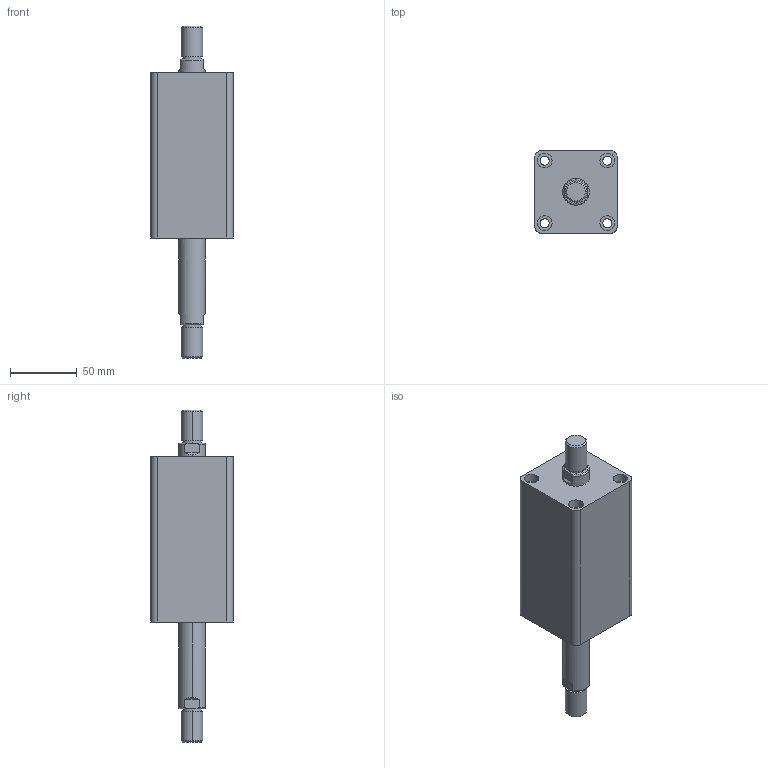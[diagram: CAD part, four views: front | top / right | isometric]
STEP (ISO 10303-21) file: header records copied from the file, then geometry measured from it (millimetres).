
FILE_DESCRIPTION (( 'STEP AP203' ), '1' );
FILE_NAME ('HTB-SW32-55W.STEP', '2019-10-07T08:54:46', ( '微软用户' ), ( '微软中国' ), 'SwSTEP 2.0', 'SolidWorks 2012', '' );
FILE_SCHEMA (( 'CONFIG_CONTROL_DESIGN' ));
Length unit declared in the file: millimetre
Products named in the file (3): HTB-SW32-55W; HTB-SW32-55W活塞杆; HTB-SW32-55掛极
Assembly tree (2 placements, depth 2):
  HTB-SW32-55W
    HTB-SW32-55掛极
    HTB-SW32-55W活塞杆
Bounding box: 62 x 62 x 249 mm (x, y, z)
Volume: 456807.8 mm3; surface area: 77192.9 mm2
Topology: 2 solids, 2 shells, 108 faces, 240 edges, 156 vertices
Faces by surface type: cylinder 52, plane 36, torus 12, cone 8
Entity records: 3449 total; most frequent: CARTESIAN_POINT 629, DIRECTION 586, ORIENTED_EDGE 480, AXIS2_PLACEMENT_3D 249, EDGE_CURVE 240, VERTEX_POINT 156, EDGE_LOOP 138, CIRCLE 136
